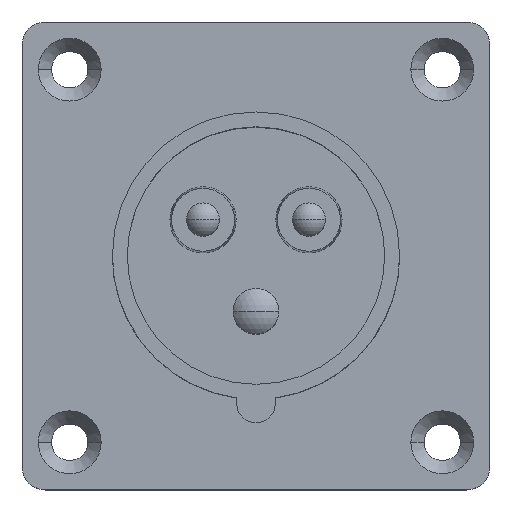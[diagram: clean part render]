
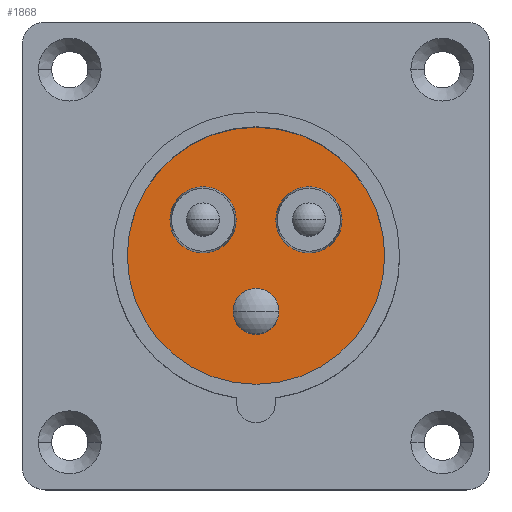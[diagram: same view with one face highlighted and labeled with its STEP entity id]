
A CAD part, top view. The second image highlights one B-rep face of the part: STEP entity #1868.
In plain terms, the highlighted planar face has unit normal (0, 0, 1).
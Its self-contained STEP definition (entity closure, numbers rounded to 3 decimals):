
#4 = EDGE_CURVE ( 'NONE', #1487, #1486, #30, .T. ) ;
#25 = EDGE_CURVE ( 'NONE', #1482, #1483, #3753, .T. ) ;
#30 = CIRCLE ( 'NONE', #296, 19.45 ) ;
#278 = EDGE_CURVE ( 'NONE', #1464, #1463, #3872, .T. ) ;
#282 = EDGE_CURVE ( 'NONE', #1467, #1468, #3874, .T. ) ;
#296 = AXIS2_PLACEMENT_3D ( 'NONE', #4230, #4231, #4232 ) ;
#318 = AXIS2_PLACEMENT_3D ( 'NONE', #4293, #4294, #4295 ) ;
#558 = AXIS2_PLACEMENT_3D ( 'NONE', #5333, #5334, #5335 ) ;
#562 = AXIS2_PLACEMENT_3D ( 'NONE', #5345, #5346, #5347 ) ;
#713 = FACE_BOUND ( 'NONE', #2364, .T. ) ;
#716 = AXIS2_PLACEMENT_3D ( 'NONE', #6019, #6020, #6021 ) ;
#718 = FACE_OUTER_BOUND ( 'NONE', #2365, .T. ) ;
#720 = FACE_BOUND ( 'NONE', #2366, .T. ) ;
#722 = FACE_BOUND ( 'NONE', #2367, .T. ) ;
#1463 = VERTEX_POINT ( 'NONE', #5543 ) ;
#1464 = VERTEX_POINT ( 'NONE', #5544 ) ;
#1467 = VERTEX_POINT ( 'NONE', #5547 ) ;
#1468 = VERTEX_POINT ( 'NONE', #5548 ) ;
#1482 = VERTEX_POINT ( 'NONE', #5562 ) ;
#1483 = VERTEX_POINT ( 'NONE', #5563 ) ;
#1486 = VERTEX_POINT ( 'NONE', #5566 ) ;
#1487 = VERTEX_POINT ( 'NONE', #5567 ) ;
#1868 = ADVANCED_FACE ( 'NONE', ( #713, #718, #720, #722 ), #6018, .F. ) ;
#2215 = EDGE_CURVE ( 'NONE', #1463, #1464, #8182, .T. ) ;
#2216 = EDGE_CURVE ( 'NONE', #1486, #1487, #8183, .T. ) ;
#2217 = EDGE_CURVE ( 'NONE', #1483, #1482, #8184, .T. ) ;
#2218 = EDGE_CURVE ( 'NONE', #1468, #1467, #8185, .T. ) ;
#2364 = EDGE_LOOP ( 'NONE', ( #2826, #2827 ) ) ;
#2365 = EDGE_LOOP ( 'NONE', ( #2829, #2828 ) ) ;
#2366 = EDGE_LOOP ( 'NONE', ( #2830, #2832 ) ) ;
#2367 = EDGE_LOOP ( 'NONE', ( #2824, #2833 ) ) ;
#2824 = ORIENTED_EDGE ( 'NONE', *, *, #2218, .F. ) ;
#2826 = ORIENTED_EDGE ( 'NONE', *, *, #278, .T. ) ;
#2827 = ORIENTED_EDGE ( 'NONE', *, *, #2215, .T. ) ;
#2828 = ORIENTED_EDGE ( 'NONE', *, *, #2216, .T. ) ;
#2829 = ORIENTED_EDGE ( 'NONE', *, *, #4, .T. ) ;
#2830 = ORIENTED_EDGE ( 'NONE', *, *, #2217, .F. ) ;
#2832 = ORIENTED_EDGE ( 'NONE', *, *, #25, .F. ) ;
#2833 = ORIENTED_EDGE ( 'NONE', *, *, #282, .F. ) ;
#3753 = CIRCLE ( 'NONE', #318, 3.45 ) ;
#3872 = CIRCLE ( 'NONE', #558, 5. ) ;
#3874 = CIRCLE ( 'NONE', #562, 5. ) ;
#4230 = CARTESIAN_POINT ( 'NONE',  ( 0., 0., 4.2 ) ) ;
#4231 = DIRECTION ( 'NONE',  ( 0., 0., 1. ) ) ;
#4232 = DIRECTION ( 'NONE',  ( 1., 0., 0. ) ) ;
#4293 = CARTESIAN_POINT ( 'NONE',  ( 0., -8.4, 4.2 ) ) ;
#4294 = DIRECTION ( 'NONE',  ( 0., 0., 1. ) ) ;
#4295 = DIRECTION ( 'NONE',  ( -1., 0., 0. ) ) ;
#5333 = CARTESIAN_POINT ( 'NONE',  ( 8., 5.456, 4.2 ) ) ;
#5334 = DIRECTION ( 'NONE',  ( 0., 0., -1. ) ) ;
#5335 = DIRECTION ( 'NONE',  ( -1., 0., 0. ) ) ;
#5345 = CARTESIAN_POINT ( 'NONE',  ( -8., 5.456, 4.2 ) ) ;
#5346 = DIRECTION ( 'NONE',  ( 0., 0., 1. ) ) ;
#5347 = DIRECTION ( 'NONE',  ( -1., 0., 0. ) ) ;
#5543 = CARTESIAN_POINT ( 'NONE',  ( 13., 5.456, 4.2 ) ) ;
#5544 = CARTESIAN_POINT ( 'NONE',  ( 3., 5.456, 4.2 ) ) ;
#5547 = CARTESIAN_POINT ( 'NONE',  ( -3., 5.456, 4.2 ) ) ;
#5548 = CARTESIAN_POINT ( 'NONE',  ( -13., 5.456, 4.2 ) ) ;
#5562 = CARTESIAN_POINT ( 'NONE',  ( 3.45, -8.4, 4.2 ) ) ;
#5563 = CARTESIAN_POINT ( 'NONE',  ( -3.45, -8.4, 4.2 ) ) ;
#5566 = CARTESIAN_POINT ( 'NONE',  ( 19.45, 0., 4.2 ) ) ;
#5567 = CARTESIAN_POINT ( 'NONE',  ( -19.45, 0., 4.2 ) ) ;
#6018 = PLANE ( 'NONE',  #716 ) ;
#6019 = CARTESIAN_POINT ( 'NONE',  ( 0., 0., 4.2 ) ) ;
#6020 = DIRECTION ( 'NONE',  ( 0., 0., -1. ) ) ;
#6021 = DIRECTION ( 'NONE',  ( -1., 0., 0. ) ) ;
#7724 = AXIS2_PLACEMENT_3D ( 'NONE', #8564, #8565, #8566 ) ;
#7725 = AXIS2_PLACEMENT_3D ( 'NONE', #8561, #8562, #8563 ) ;
#7726 = AXIS2_PLACEMENT_3D ( 'NONE', #8555, #8559, #8560 ) ;
#7727 = AXIS2_PLACEMENT_3D ( 'NONE', #8567, #8568, #8569 ) ;
#8182 = CIRCLE ( 'NONE', #7726, 5. ) ;
#8183 = CIRCLE ( 'NONE', #7725, 19.45 ) ;
#8184 = CIRCLE ( 'NONE', #7724, 3.45 ) ;
#8185 = CIRCLE ( 'NONE', #7727, 5. ) ;
#8555 = CARTESIAN_POINT ( 'NONE',  ( 8., 5.456, 4.2 ) ) ;
#8559 = DIRECTION ( 'NONE',  ( 0., 0., -1. ) ) ;
#8560 = DIRECTION ( 'NONE',  ( -1., 0., 0. ) ) ;
#8561 = CARTESIAN_POINT ( 'NONE',  ( 0., 0., 4.2 ) ) ;
#8562 = DIRECTION ( 'NONE',  ( 0., 0., 1. ) ) ;
#8563 = DIRECTION ( 'NONE',  ( 1., 0., 0. ) ) ;
#8564 = CARTESIAN_POINT ( 'NONE',  ( 0., -8.4, 4.2 ) ) ;
#8565 = DIRECTION ( 'NONE',  ( 0., 0., 1. ) ) ;
#8566 = DIRECTION ( 'NONE',  ( -1., 0., 0. ) ) ;
#8567 = CARTESIAN_POINT ( 'NONE',  ( -8., 5.456, 4.2 ) ) ;
#8568 = DIRECTION ( 'NONE',  ( 0., 0., 1. ) ) ;
#8569 = DIRECTION ( 'NONE',  ( -1., 0., 0. ) ) ;
